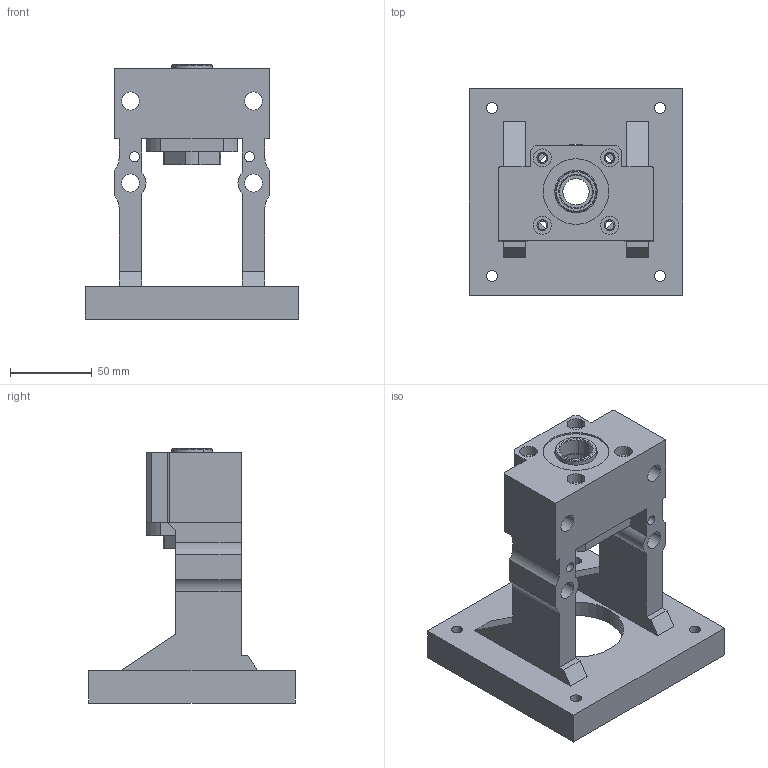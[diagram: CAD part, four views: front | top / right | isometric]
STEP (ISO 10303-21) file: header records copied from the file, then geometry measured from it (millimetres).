
FILE_DESCRIPTION((''),'2;1');
FILE_NAME('M130G--EK20-C_ASM','2019-12-30T',('ASUS'),(''),'PRO/ENGINEER BY PARAMETRIC TECHNOLOGY CORPORATION, 2010280','PRO/ENGINEER BY PARAMETRIC TECHNOLOGY CORPORATION, 2010280','');
FILE_SCHEMA(('CONFIG_CONTROL_DESIGN'));
Length unit declared in the file: millimetre
Products named in the file (5): MBCF20-G_1; MBCF20-G; MBCF20-G_3; PRT0002; M130G--EK20-C_ASM
Assembly tree (5 placements, depth 2):
  M130G--EK20-C_ASM
    MBCF20-G_1  x2
    MBCF20-G
    MBCF20-G_3
    PRT0002
Bounding box: 130 x 126 x 155 mm (x, y, z)
Volume: 508469.5 mm3; surface area: 114571.7 mm2
Topology: 5 solids, 5 shells, 192 faces, 499 edges, 333 vertices
Faces by surface type: cylinder 104, plane 72, cone 16
Entity records: 5973 total; most frequent: CARTESIAN_POINT 1096, DIRECTION 1060, ORIENTED_EDGE 942, EDGE_CURVE 471, AXIS2_PLACEMENT_3D 409, VERTEX_POINT 317, EDGE_LOOP 246, VECTOR 242
